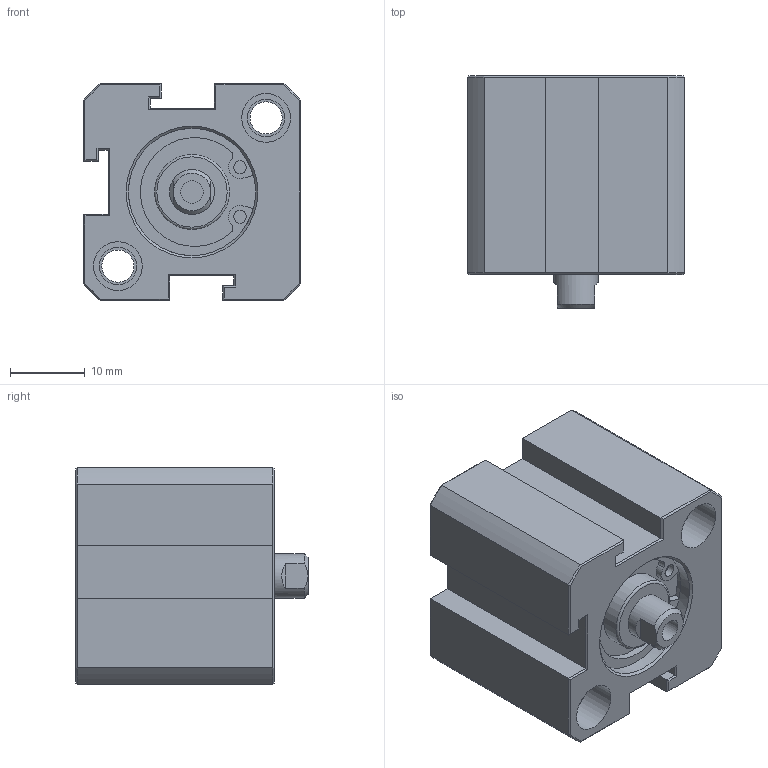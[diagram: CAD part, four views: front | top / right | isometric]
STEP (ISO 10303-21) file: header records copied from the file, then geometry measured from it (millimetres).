
FILE_DESCRIPTION(/* description */ (''),/* implementation_level */ '2;1');
FILE_NAME(/* name */ 'AJC-SD16X5N',/* time_stamp */ '2019-06-13T11:46:19+08:00',/* author */ ('JEFF HUANG'),/* organization */ ('TAIWAN AMAC CLAMP INDUSTRIAL CO., LTD.'),/* preprocessor_version */ 'ST-DEVELOPER v16.7',/* originating_system */ 'DEX',/* authorisation */ $);
FILE_SCHEMA (('AUTOMOTIVE_DESIGN {1 0 10303 214 3 1 1}'));
Length unit declared in the file: millimetre
Products named in the file (1): AJC-SD16X5N
Bounding box: 29 x 31 x 29 mm (x, y, z)
Volume: 17786.2 mm3; surface area: 6785.5 mm2
Topology: 1 solids, 1 shells, 152 faces, 332 edges, 202 vertices
Faces by surface type: plane 100, cylinder 38, cone 12, torus 2
Full cylindrical faces by diameter (mm): 1.7 x4, 3 x1, 4.3 x2, 5 x6, 6 x1, 6.5 x4, 10 x2, 17 x2
Entity records: 5035 total; most frequent: CARTESIAN_POINT 726, DIRECTION 677, ORIENTED_EDGE 602, EDGE_CURVE 301, AXIS2_PLACEMENT_3D 246, EDGE_LOOP 202, FACE_BOUND 202, VERTEX_POINT 197
